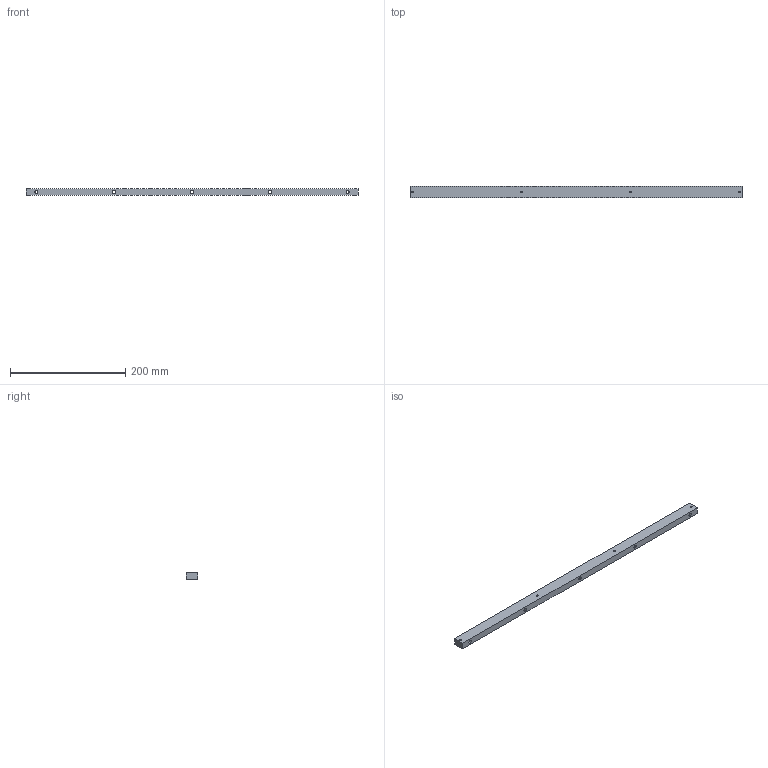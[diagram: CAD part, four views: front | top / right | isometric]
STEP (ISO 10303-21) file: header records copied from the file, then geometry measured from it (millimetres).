
FILE_DESCRIPTION(('STEP AP203'), '1');
FILE_NAME('ÒÏÏÔ1801.01.07.02.005 - Óñèëèòåëü', '', ('UNSPECIFIED'), ('UNSPECIFIED'), 'C3D Converter', 'C3D Toolkit', '');
FILE_SCHEMA(('CONFIG_CONTROL_DESIGN'));
Length unit declared in the file: millimetre
Products named in the file (1): ТППФ1801.01.07.02.005
Bounding box: 576 x 20 x 12 mm (x, y, z)
Volume: 135462.3 mm3; surface area: 39246.5 mm2
Topology: 1 solids, 1 shells, 19 faces, 47 edges, 30 vertices
Faces by surface type: cylinder 9, plane 6, cone 4
Full cylindrical faces by diameter (mm): 3.242 x4, 5.5 x5
Entity records: 734 total; most frequent: DIRECTION 96, CARTESIAN_POINT 84, ORIENTED_EDGE 68, EDGE_LOOP 50, AXIS2_PLACEMENT_3D 42, EDGE_CURVE 34, VERTEX_POINT 30, FACE_OUTER_BOUND 26
